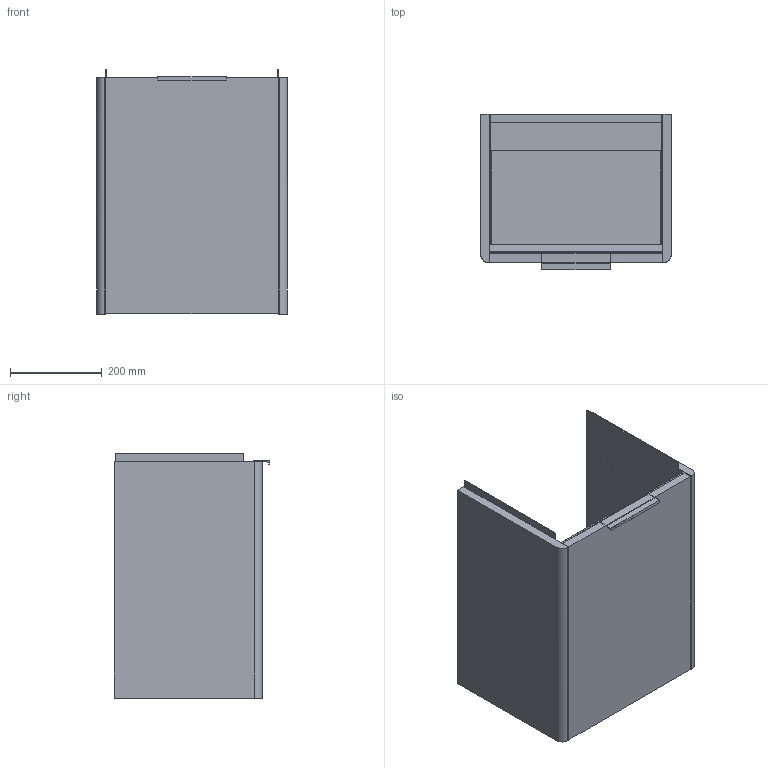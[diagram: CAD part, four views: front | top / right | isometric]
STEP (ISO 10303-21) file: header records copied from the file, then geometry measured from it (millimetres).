
FILE_DESCRIPTION(/* description */ (''),/* implementation_level */ '2;1');
FILE_NAME(/* name */ '3D01_4~4',/* time_stamp */ '2018-05-07T13:17:26+02:00',/* author */ (''),/* organization */ (''),/* preprocessor_version */ 'ST-DEVELOPER v15',/* originating_system */ '',/* authorisation */ '');
FILE_SCHEMA (('AUTOMOTIVE_DESIGN'));
Length unit declared in the file: millimetre
Products named in the file (10): Document; Maniglia; Fianco dx; Fascia frontale; Catena retro; Fondo mobile; Fascia rialzo; Fianco sx; Ripiano vetro; Anta
Assembly tree (9 placements, depth 2):
  Document
    Maniglia
    Fianco dx
    Fascia frontale
    Catena retro
    Fondo mobile
    Fascia rialzo
    Fianco sx
    Ripiano vetro
    Anta
Bounding box: 415 x 337.6 x 531 mm (x, y, z)
Volume: 12924049.9 mm3; surface area: 1733302.9 mm2
Topology: 10 solids, 10 shells, 95 faces, 233 edges, 166 vertices
Faces by surface type: plane 73, bspline 22
Entity records: 3012 total; most frequent: CARTESIAN_POINT 1081, ORIENTED_EDGE 466, EDGE_CURVE 233, VERTEX_POINT 166, B_SPLINE_CURVE_WITH_KNOTS 157, DIRECTION 129, EDGE_LOOP 103, AXIS2_PLACEMENT_3D 101
